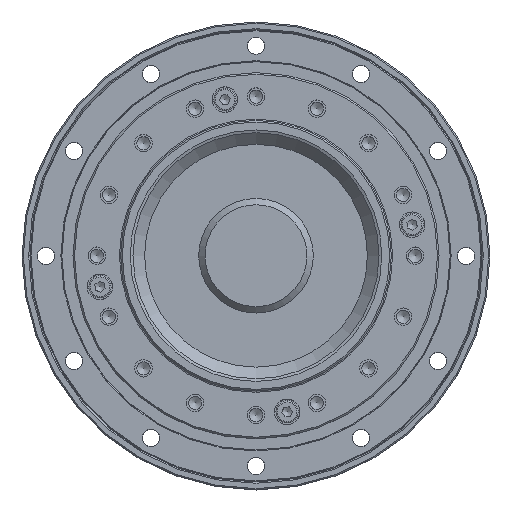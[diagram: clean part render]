
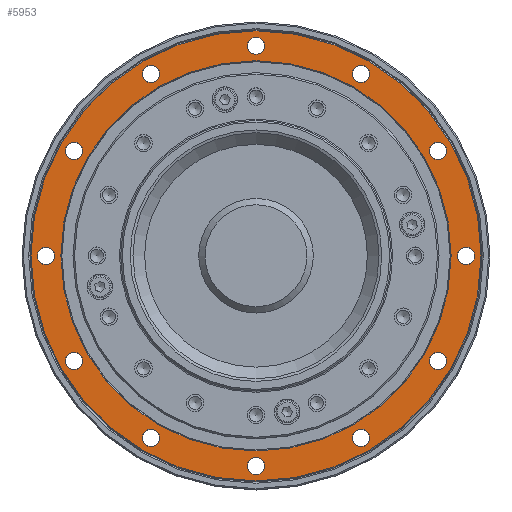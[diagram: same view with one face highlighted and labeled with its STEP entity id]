
A CAD part, top view. The second image highlights one B-rep face of the part: STEP entity #5953.
In plain terms, the highlighted planar face has unit normal (0, 0, 1).
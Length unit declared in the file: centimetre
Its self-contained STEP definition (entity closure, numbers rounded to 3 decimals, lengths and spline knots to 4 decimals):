
#1036=FACE_BOUND('',#2305,.T.);
#1037=FACE_BOUND('',#2306,.T.);
#1038=FACE_BOUND('',#2307,.T.);
#1039=FACE_BOUND('',#2308,.T.);
#1040=FACE_BOUND('',#2309,.T.);
#1041=FACE_BOUND('',#2310,.T.);
#1042=FACE_BOUND('',#2311,.T.);
#1043=FACE_BOUND('',#2312,.T.);
#1044=FACE_BOUND('',#2313,.T.);
#1045=FACE_BOUND('',#2314,.T.);
#1046=FACE_BOUND('',#2315,.T.);
#1047=FACE_BOUND('',#2316,.T.);
#1048=FACE_BOUND('',#2317,.T.);
#1049=FACE_BOUND('',#2318,.T.);
#2305=EDGE_LOOP('',(#5022));
#2306=EDGE_LOOP('',(#5023));
#2307=EDGE_LOOP('',(#5024));
#2308=EDGE_LOOP('',(#5025));
#2309=EDGE_LOOP('',(#5026));
#2310=EDGE_LOOP('',(#5027));
#2311=EDGE_LOOP('',(#5028));
#2312=EDGE_LOOP('',(#5029));
#2313=EDGE_LOOP('',(#5030));
#2314=EDGE_LOOP('',(#5031));
#2315=EDGE_LOOP('',(#5032));
#2316=EDGE_LOOP('',(#5033));
#2317=EDGE_LOOP('',(#5034));
#2318=EDGE_LOOP('',(#5035));
#2775=CIRCLE('',#6829,7.07);
#2776=CIRCLE('',#6831,0.275);
#2777=CIRCLE('',#6832,0.275);
#2778=CIRCLE('',#6833,0.275);
#2779=CIRCLE('',#6834,0.275);
#2780=CIRCLE('',#6835,0.275);
#2781=CIRCLE('',#6836,0.275);
#2782=CIRCLE('',#6837,0.275);
#2783=CIRCLE('',#6838,0.275);
#2784=CIRCLE('',#6839,0.275);
#2785=CIRCLE('',#6840,0.275);
#2786=CIRCLE('',#6841,0.275);
#2787=CIRCLE('',#6842,0.275);
#2788=CIRCLE('',#6843,6.13);
#3301=VERTEX_POINT('',#10402);
#3302=VERTEX_POINT('',#10405);
#3303=VERTEX_POINT('',#10407);
#3304=VERTEX_POINT('',#10409);
#3305=VERTEX_POINT('',#10411);
#3306=VERTEX_POINT('',#10413);
#3307=VERTEX_POINT('',#10415);
#3308=VERTEX_POINT('',#10417);
#3309=VERTEX_POINT('',#10419);
#3310=VERTEX_POINT('',#10421);
#3311=VERTEX_POINT('',#10423);
#3312=VERTEX_POINT('',#10425);
#3313=VERTEX_POINT('',#10427);
#3314=VERTEX_POINT('',#10429);
#3892=EDGE_CURVE('',#3301,#3301,#2775,.T.);
#3893=EDGE_CURVE('',#3302,#3302,#2776,.T.);
#3894=EDGE_CURVE('',#3303,#3303,#2777,.T.);
#3895=EDGE_CURVE('',#3304,#3304,#2778,.T.);
#3896=EDGE_CURVE('',#3305,#3305,#2779,.T.);
#3897=EDGE_CURVE('',#3306,#3306,#2780,.T.);
#3898=EDGE_CURVE('',#3307,#3307,#2781,.T.);
#3899=EDGE_CURVE('',#3308,#3308,#2782,.T.);
#3900=EDGE_CURVE('',#3309,#3309,#2783,.T.);
#3901=EDGE_CURVE('',#3310,#3310,#2784,.T.);
#3902=EDGE_CURVE('',#3311,#3311,#2785,.T.);
#3903=EDGE_CURVE('',#3312,#3312,#2786,.T.);
#3904=EDGE_CURVE('',#3313,#3313,#2787,.T.);
#3905=EDGE_CURVE('',#3314,#3314,#2788,.T.);
#5022=ORIENTED_EDGE('',*,*,#3893,.T.);
#5023=ORIENTED_EDGE('',*,*,#3894,.T.);
#5024=ORIENTED_EDGE('',*,*,#3895,.T.);
#5025=ORIENTED_EDGE('',*,*,#3896,.T.);
#5026=ORIENTED_EDGE('',*,*,#3897,.T.);
#5027=ORIENTED_EDGE('',*,*,#3898,.T.);
#5028=ORIENTED_EDGE('',*,*,#3899,.T.);
#5029=ORIENTED_EDGE('',*,*,#3900,.T.);
#5030=ORIENTED_EDGE('',*,*,#3901,.T.);
#5031=ORIENTED_EDGE('',*,*,#3902,.T.);
#5032=ORIENTED_EDGE('',*,*,#3903,.T.);
#5033=ORIENTED_EDGE('',*,*,#3904,.T.);
#5034=ORIENTED_EDGE('',*,*,#3892,.F.);
#5035=ORIENTED_EDGE('',*,*,#3905,.F.);
#5270=PLANE('',#6830);
#5953=ADVANCED_FACE('',(#1036,#1037,#1038,#1039,#1040,#1041,#1042,#1043,
#1044,#1045,#1046,#1047,#1048,#1049),#5270,.T.);
#6829=AXIS2_PLACEMENT_3D('',#10403,#8655,#8656);
#6830=AXIS2_PLACEMENT_3D('',#10404,#8657,#8658);
#6831=AXIS2_PLACEMENT_3D('',#10406,#8659,#8660);
#6832=AXIS2_PLACEMENT_3D('',#10408,#8661,#8662);
#6833=AXIS2_PLACEMENT_3D('',#10410,#8663,#8664);
#6834=AXIS2_PLACEMENT_3D('',#10412,#8665,#8666);
#6835=AXIS2_PLACEMENT_3D('',#10414,#8667,#8668);
#6836=AXIS2_PLACEMENT_3D('',#10416,#8669,#8670);
#6837=AXIS2_PLACEMENT_3D('',#10418,#8671,#8672);
#6838=AXIS2_PLACEMENT_3D('',#10420,#8673,#8674);
#6839=AXIS2_PLACEMENT_3D('',#10422,#8675,#8676);
#6840=AXIS2_PLACEMENT_3D('',#10424,#8677,#8678);
#6841=AXIS2_PLACEMENT_3D('',#10426,#8679,#8680);
#6842=AXIS2_PLACEMENT_3D('',#10428,#8681,#8682);
#6843=AXIS2_PLACEMENT_3D('',#10430,#8683,#8684);
#8655=DIRECTION('center_axis',(0.,0.,
-1.));
#8656=DIRECTION('ref_axis',(0.,-1.,0.));
#8657=DIRECTION('center_axis',(0.,0.,
1.));
#8658=DIRECTION('ref_axis',(1.,0.,0.));
#8659=DIRECTION('center_axis',(0.,0.,
-1.));
#8660=DIRECTION('ref_axis',(0.866,-0.5,0.));
#8661=DIRECTION('center_axis',(0.,0.,
-1.));
#8662=DIRECTION('ref_axis',(0.5,-0.866,0.));
#8663=DIRECTION('center_axis',(0.,0.,
-1.));
#8664=DIRECTION('ref_axis',(0.,-1.,0.));
#8665=DIRECTION('center_axis',(0.,0.,
-1.));
#8666=DIRECTION('ref_axis',(-0.5,-0.866,0.));
#8667=DIRECTION('center_axis',(0.,0.,
-1.));
#8668=DIRECTION('ref_axis',(-0.866,-0.5,0.));
#8669=DIRECTION('center_axis',(0.,0.,
-1.));
#8670=DIRECTION('ref_axis',(-1.,0.,0.));
#8671=DIRECTION('center_axis',(0.,0.,
-1.));
#8672=DIRECTION('ref_axis',(-0.866,0.5,0.));
#8673=DIRECTION('center_axis',(0.,0.,
-1.));
#8674=DIRECTION('ref_axis',(-0.5,0.866,0.));
#8675=DIRECTION('center_axis',(0.,0.,
-1.));
#8676=DIRECTION('ref_axis',(0.,1.,0.));
#8677=DIRECTION('center_axis',(0.,0.,
-1.));
#8678=DIRECTION('ref_axis',(0.5,0.866,0.));
#8679=DIRECTION('center_axis',(0.,0.,
-1.));
#8680=DIRECTION('ref_axis',(0.866,0.5,0.));
#8681=DIRECTION('center_axis',(0.,0.,
-1.));
#8682=DIRECTION('ref_axis',(1.,0.,0.));
#8683=DIRECTION('center_axis',(0.,0.,
1.));
#8684=DIRECTION('ref_axis',(0.,-1.,0.));
#10402=CARTESIAN_POINT('',(0.,7.07,2.24));
#10403=CARTESIAN_POINT('Origin',(0.,0.,
2.24));
#10404=CARTESIAN_POINT('Origin',(0.,6.1,2.24));
#10405=CARTESIAN_POINT('',(3.5382,5.5783,2.24));
#10406=CARTESIAN_POINT('Origin',(3.3,5.7158,2.24));
#10407=CARTESIAN_POINT('',(5.8533,3.0618,2.24));
#10408=CARTESIAN_POINT('Origin',(5.7158,3.3,2.24));
#10409=CARTESIAN_POINT('',(6.6,-0.275,2.24));
#10410=CARTESIAN_POINT('Origin',(6.6,0.,
2.24));
#10411=CARTESIAN_POINT('',(5.5783,-3.5382,2.24));
#10412=CARTESIAN_POINT('Origin',(5.7158,-3.3,2.24));
#10413=CARTESIAN_POINT('',(3.0618,-5.8533,2.24));
#10414=CARTESIAN_POINT('Origin',(3.3,-5.7158,2.24));
#10415=CARTESIAN_POINT('',(-0.275,-6.6,2.24));
#10416=CARTESIAN_POINT('Origin',(0.,-6.6,2.24));
#10417=CARTESIAN_POINT('',(-3.5382,-5.5783,2.24));
#10418=CARTESIAN_POINT('Origin',(-3.3,-5.7158,2.24));
#10419=CARTESIAN_POINT('',(-5.8533,-3.0618,2.24));
#10420=CARTESIAN_POINT('Origin',(-5.7158,-3.3,2.24));
#10421=CARTESIAN_POINT('',(-6.6,0.275,2.24));
#10422=CARTESIAN_POINT('Origin',(-6.6,0.,
2.24));
#10423=CARTESIAN_POINT('',(-5.5783,3.5382,2.24));
#10424=CARTESIAN_POINT('Origin',(-5.7158,3.3,2.24));
#10425=CARTESIAN_POINT('',(-3.0618,5.8533,2.24));
#10426=CARTESIAN_POINT('Origin',(-3.3,5.7158,2.24));
#10427=CARTESIAN_POINT('',(0.275,6.6,2.24));
#10428=CARTESIAN_POINT('Origin',(0.,6.6,2.24));
#10429=CARTESIAN_POINT('',(0.,6.13,2.24));
#10430=CARTESIAN_POINT('Origin',(0.,0.,
2.24));
